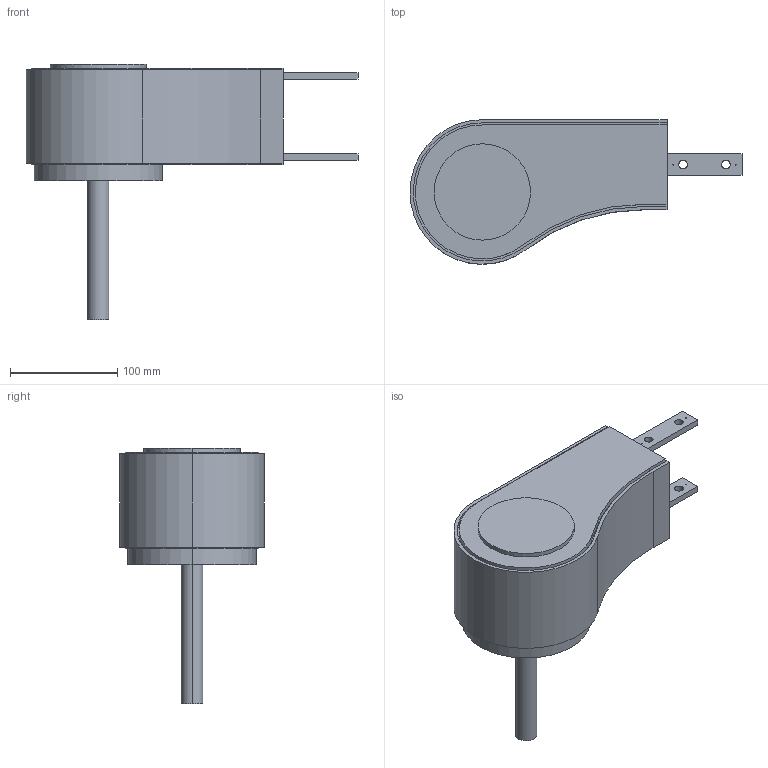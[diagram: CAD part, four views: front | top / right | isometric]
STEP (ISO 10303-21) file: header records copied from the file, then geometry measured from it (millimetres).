
FILE_DESCRIPTION (( 'STEP AP214' ), '1' );
FILE_NAME ('CS SL Aandr. - Omloop.90 Aandr. Rechts.STEP', '2017-02-08T07:32:48', ( '' ), ( '' ), 'SwSTEP 2.0', 'SolidWorks 2016', '' );
FILE_SCHEMA (( 'AUTOMOTIVE_DESIGN' ));
Length unit declared in the file: millimetre
Products named in the file (1): CS SL Aandr. - Omloop.90 Aandr. Rechts
Bounding box: 310 x 134.96 x 239 mm (x, y, z)
Volume: 2443761.6 mm3; surface area: 142157 mm2
Topology: 1 solids, 1 shells, 118 faces, 286 edges, 184 vertices
Faces by surface type: cylinder 67, plane 43, cone 8
Entity records: 3598 total; most frequent: DIRECTION 650, CARTESIAN_POINT 581, ORIENTED_EDGE 556, EDGE_CURVE 278, AXIS2_PLACEMENT_3D 253, VERTEX_POINT 184, EDGE_LOOP 156, LINE 144
